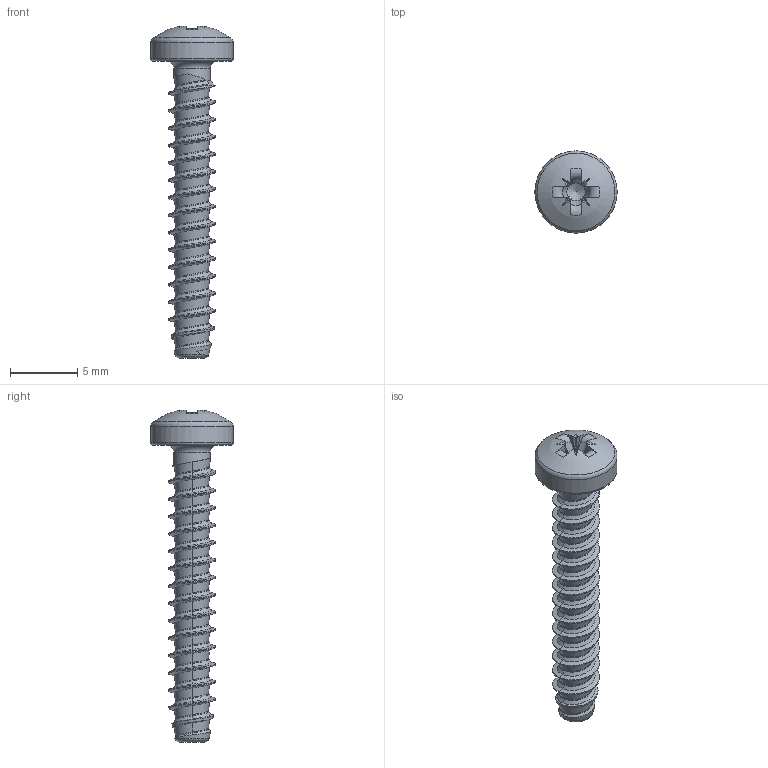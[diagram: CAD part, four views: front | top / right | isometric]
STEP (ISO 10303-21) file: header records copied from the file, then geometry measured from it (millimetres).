
FILE_DESCRIPTION(/* description */ (''),/* implementation_level */ '2;1');
FILE_NAME(/* name */ 'KN6032-STSplus-35x22-Z2.step',/* time_stamp */ '2017-10-10T15:56:33+02:00',/* author */ (''),/* organization */ (''),/* preprocessor_version */ 'ST-DEVELOPER v16',/* originating_system */ 'SIEMENS PLM Software NX 10.0',/* authorisation */ '');
FILE_SCHEMA (('AUTOMOTIVE_DESIGN { 1 0 10303 214 3 1 1 1 }'));
Length unit declared in the file: millimetre
Products named in the file (1): KN6032-STSplus-35x22-Z2
Bounding box: 6.1 x 6.1 x 24.63 mm (x, y, z)
Volume: 187.3 mm3; surface area: 373.1 mm2
Topology: 1 solids, 1 shells, 153 faces, 363 edges, 212 vertices
Faces by surface type: bspline 84, plane 42, cylinder 11, torus 8, cone 7, sphere 1
Full cylindrical faces by diameter (mm): 2.73 x1, 6.1 x1
Entity records: 8853 total; most frequent: CARTESIAN_POINT 5937, ORIENTED_EDGE 698, DIRECTION 390, EDGE_CURVE 349, VERTEX_POINT 207, EDGE_LOOP 161, B_SPLINE_CURVE_WITH_KNOTS 154, ADVANCED_FACE 153
